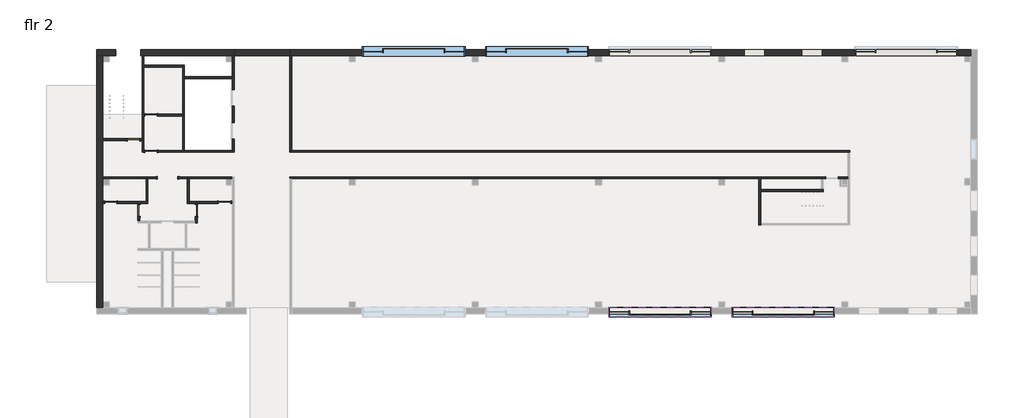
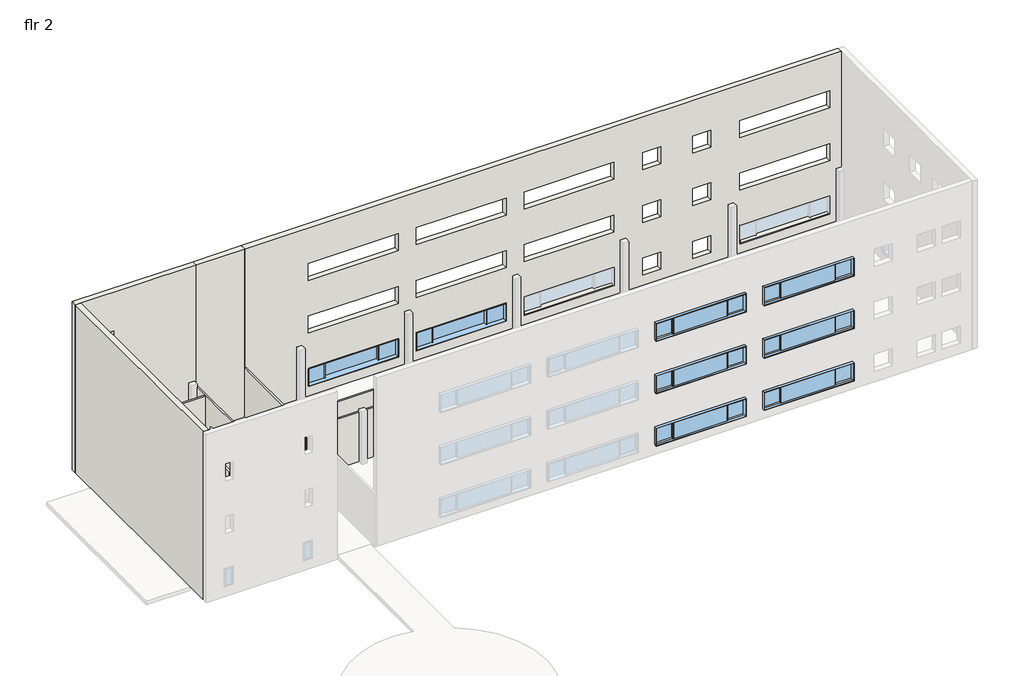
# One storey, part 2 of 3: 24 walls, 8 doors, 8 windows.
"""IFC4 building model written with IfcOpenShell, lengths in millimetres."""

from ifc_helpers import new_model, si_unit, frame, origin, place, context, project, spatial, polyline, outline, extrude, faceted_brep, transform, mapped, element, save
from components import door_df85aeb6, door_c6edcd30, door_9814c99b, fixed_25_x5_r1_fixed_25_x5_r1_81c53d64

model = new_model("IFC4")

# Units and contexts
model_context = context("Model", 3, world=origin())
ifc_project = project(units=[si_unit("LENGTHUNIT", "METRE", prefix="MILLI")], contexts=[model_context])

# Site, building, storey
site = spatial("IfcSite", under=ifc_project)
building = spatial("IfcBuilding", under=site)
storey = spatial("IfcBuildingStorey", under=building, Name="flr 2", Elevation=5486.4)

# Doors
placement = place(None, origin())
door_shape = door_df85aeb6(model_context)
element("IfcDoor", 1, ObjectType="Cased Opening : 60\" x 84\"", at=placement, inside=storey, context=model_context, shape_type="MappedRepresentation", body=[
    mapped(door_shape, transform((-110751.290902, 34756.8571029, 5486.4), x_axis=(-1.0, 0.0, 0.0), y_axis=(0.0, -1.0, 0.0), z_axis=(0.0, 0.0, 1.0))),
])
door_2_shape = door_c6edcd30(model_context)
element("IfcDoor", 2, ObjectType="Sgl Flush : 36\" x 84\"", at=placement, inside=storey, context=model_context, shape_type="MappedRepresentation", body=[
    mapped(door_2_shape, transform((-113272.240902, 37588.9571029, 5486.4), x_axis=(1.0, 0.0, 0.0), y_axis=(0.0, 1.0, 0.0), z_axis=(0.0, 0.0, 1.0))),
])
element("IfcDoor", 3, ObjectType="Sgl Flush : 36\" x 84\"", at=placement, inside=storey, context=model_context, shape_type="MappedRepresentation", body=[
    mapped(door_2_shape, transform((-112884.890902, 32318.4571029, 5486.4), x_axis=(0.0, 1.0, 0.0), y_axis=(-1.0, 0.0, 0.0), z_axis=(0.0, 0.0, 1.0))),
])
element("IfcDoor", 4, ObjectType="Sgl Flush : 36\" x 84\"", at=placement, inside=storey, context=model_context, shape_type="MappedRepresentation", body=[
    mapped(door_2_shape, transform((-106515.840902, 32928.0571029, 5486.4), x_axis=(1.0, 0.0, 0.0), y_axis=(0.0, 1.0, 0.0), z_axis=(0.0, 0.0, 1.0))),
])
door_3_shape = door_9814c99b(model_context)
element("IfcDoor", 5, ObjectType="Sgl Flush : 36\" x 84\"", at=placement, inside=storey, context=model_context, shape_type="MappedRepresentation", body=[
    mapped(door_3_shape, transform((-111970.490902, 36725.3571029, 5486.4), x_axis=(-1.0, 0.0, 0.0), y_axis=(0.0, -1.0, 0.0), z_axis=(0.0, 0.0, 1.0))),
])
element("IfcDoor", 6, ObjectType="Sgl Flush : 36\" x 84\"", at=placement, inside=storey, context=model_context, shape_type="MappedRepresentation", body=[
    mapped(door_3_shape, transform((-111970.490902, 39417.7571029, 5486.4), x_axis=(-1.0, 0.0, 0.0), y_axis=(0.0, -1.0, 0.0), z_axis=(0.0, 0.0, 1.0))),
])
element("IfcDoor", 7, ObjectType="Sgl Flush : 36\" x 84\"", at=placement, inside=storey, context=model_context, shape_type="MappedRepresentation", body=[
    mapped(door_3_shape, transform((-108617.690902, 32324.8071029, 5486.4), x_axis=(0.0, 1.0, 0.0), y_axis=(-1.0, 0.0, 0.0), z_axis=(0.0, 0.0, 1.0))),
])
element("IfcDoor", 8, ObjectType="Sgl Flush : 36\" x 84\"", at=placement, inside=storey, context=model_context, shape_type="MappedRepresentation", body=[
    mapped(door_3_shape, transform((-114968.0703209, 32928.0571029, 5486.4), x_axis=(-1.0, 0.0, 0.0), y_axis=(0.0, -1.0, 0.0), z_axis=(0.0, 0.0, 1.0))),
])

# Walls
element("IfcWall", 9, ObjectType="Interior - 5 1/2\" Partition (1-hr)", at=placement, inside=storey, context=model_context, shape_type="Brep", body=[
    faceted_brep([(-111513.290902, 34826.7071029, 7620.0), (-111513.290902, 34826.7071029, 5486.4), (-115553.8578209, 34826.7071029, 5486.4), (-115553.8578209, 34826.7071029, 9906.0), (-105950.690902, 34826.7071029, 9906.0), (-105950.690902, 34826.7071029, 5486.4), (-109989.290902, 34826.7071029, 5486.4), (-109989.290902, 34826.7071029, 7620.0), (-115553.8578209, 34687.0071029, 5486.4), (-112345.140902, 34687.0071029, 5486.4), (-112205.440902, 34687.0071029, 5486.4), (-111513.290902, 34687.0071029, 5486.4), (-111513.290902, 34687.0071029, 7620.0), (-109989.290902, 34687.0071029, 7620.0), (-109989.290902, 34687.0071029, 5486.4), (-109297.140902, 34687.0071029, 5486.4), (-109157.440902, 34687.0071029, 5486.4), (-105950.690902, 34687.0071029, 5486.4), (-105950.690902, 34687.0071029, 9906.0), (-109157.440902, 34687.0071029, 9906.0), (-109297.140902, 34687.0071029, 9906.0), (-112205.440902, 34687.0071029, 9906.0), (-112345.140902, 34687.0071029, 9906.0), (-115553.8578209, 34687.0071029, 9906.0)], [[[0, 1, 2, 3, 4, 5, 6, 7]], [[8, 9, 10, 11, 12, 13, 14, 15, 16, 17, 18, 19, 20, 21, 22, 23]], [[2, 1, 11, 10, 9, 8]], [[6, 5, 17, 16, 15, 14]], [[5, 4, 18, 17]], [[3, 2, 8, 23]], [[4, 3, 23, 22, 21, 20, 19, 18]], [[12, 11, 1, 0]], [[13, 12, 0, 7]], [[14, 13, 7, 6]]]),
])
element("IfcWall", 10, ObjectType="Interior - 5 1/2\" Partition (1-hr)", at=placement, inside=storey, context=model_context, shape_type="Brep", body=[
    faceted_brep([(-105950.690902, 40071.8071029, 7645.4), (-105950.690902, 40071.8071029, 5486.4), (-105950.690902, 38865.3071029, 5486.4), (-105950.690902, 38865.3071029, 7645.4), (-105950.690902, 37633.4071029, 7645.4), (-105950.690902, 37633.4071029, 5486.4), (-105950.690902, 36795.2071029, 5486.4), (-105950.690902, 36655.5071029, 5486.4), (-105950.690902, 36655.5071029, 9906.0), (-105950.690902, 36795.2071029, 9906.0), (-105950.690902, 42141.9071029, 9906.0), (-105950.690902, 42281.6071029, 9906.0), (-105950.690902, 43832.5946029, 9906.0), (-105950.690902, 43832.5946029, 5486.4), (-105950.690902, 42281.6071029, 5486.4), (-105950.690902, 42141.9071029, 5486.4), (-105950.690902, 41303.7071029, 5486.4), (-105950.690902, 41303.7071029, 7645.4), (-105810.990902, 38865.3071029, 5486.4), (-105810.990902, 40071.8071029, 5486.4), (-105810.990902, 40071.8071029, 7645.4), (-105810.990902, 41303.7071029, 7645.4), (-105810.990902, 41303.7071029, 5486.4), (-105810.990902, 43832.5946029, 5486.4), (-105810.990902, 43832.5946029, 9906.0), (-105810.990902, 36655.5071029, 9906.0), (-105810.990902, 36655.5071029, 5486.4), (-105810.990902, 37633.4071029, 5486.4), (-105810.990902, 37633.4071029, 7645.4), (-105810.990902, 38865.3071029, 7645.4)], [[[0, 1, 2, 3, 4, 5, 6, 7, 8, 9, 10, 11, 12, 13, 14, 15, 16, 17]], [[18, 19, 20, 21, 22, 23, 24, 25, 26, 27, 28, 29]], [[7, 6, 5, 27, 26]], [[2, 1, 19, 18]], [[16, 15, 14, 13, 23, 22]], [[8, 7, 26, 25]], [[13, 12, 24, 23]], [[12, 11, 10, 9, 8, 25, 24]], [[28, 27, 5, 4]], [[29, 28, 4, 3]], [[18, 29, 3, 2]], [[20, 19, 1, 0]], [[21, 20, 0, 17]], [[22, 21, 17, 16]]]),
])
element("IfcWall", 11, ObjectType="Interior - 5 1/2\" Partition (1-hr)", at=placement, inside=storey, context=model_context, shape_type="Brep", body=[
    faceted_brep([(-112427.690902, 36795.2071029, 7620.0), (-112427.690902, 36795.2071029, 5486.4), (-112510.240902, 36795.2071029, 5486.4), (-112649.940902, 36795.2071029, 5486.4), (-112649.940902, 36795.2071029, 9906.0), (-112510.240902, 36795.2071029, 9906.0), (-109633.690902, 36795.2071029, 9906.0), (-109493.990902, 36795.2071029, 9906.0), (-105950.690902, 36795.2071029, 9906.0), (-105950.690902, 36795.2071029, 5486.4), (-109493.990902, 36795.2071029, 5486.4), (-109633.690902, 36795.2071029, 5486.4), (-111513.290902, 36795.2071029, 5486.4), (-111513.290902, 36795.2071029, 7620.0), (-112649.940902, 36655.5071029, 5486.4), (-112427.690902, 36655.5071029, 5486.4), (-112427.690902, 36655.5071029, 7620.0), (-111513.290902, 36655.5071029, 7620.0), (-111513.290902, 36655.5071029, 5486.4), (-105950.690902, 36655.5071029, 5486.4), (-105950.690902, 36655.5071029, 9906.0), (-112649.940902, 36655.5071029, 9906.0)], [[[0, 1, 2, 3, 4, 5, 6, 7, 8, 9, 10, 11, 12, 13]], [[14, 15, 16, 17, 18, 19, 20, 21]], [[3, 2, 1, 15, 14]], [[12, 11, 10, 9, 19, 18]], [[4, 3, 14, 21]], [[9, 8, 20, 19]], [[8, 7, 6, 5, 4, 21, 20]], [[16, 15, 1, 0]], [[17, 16, 0, 13]], [[18, 17, 13, 12]]]),
])
element("IfcWall", 12, ObjectType="Interior - 5 1/2\" Partition (1-hr)", at=placement, inside=storey, context=model_context, shape_type="Brep", body=[
    faceted_brep([(-112510.240902, 36795.2071029, 5486.4), (-112510.240902, 39347.9071029, 5486.4), (-112510.240902, 39487.6071029, 5486.4), (-112510.240902, 42980.1071029, 5486.4), (-112510.240902, 43119.8071029, 5486.4), (-112510.240902, 43832.5946029, 5486.4), (-112510.240902, 43832.5946029, 9906.0), (-112510.240902, 43119.8071029, 9906.0), (-112510.240902, 42980.1071029, 9906.0), (-112510.240902, 39487.6071029, 9906.0), (-112510.240902, 39347.9071029, 9906.0), (-112510.240902, 36795.2071029, 9906.0), (-112649.940902, 36795.2071029, 5486.4), (-112649.940902, 36795.2071029, 9906.0), (-112649.940902, 39436.8071029, 9906.0), (-112649.940902, 43119.8071029, 9906.0), (-112649.940902, 43832.5946029, 9906.0), (-112649.940902, 43832.5946029, 5486.4), (-112649.940902, 37658.8071029, 5486.4), (-112649.940902, 37519.1071029, 5486.4)], [[[0, 1, 2, 3, 4, 5, 6, 7, 8, 9, 10, 11]], [[12, 13, 14, 15, 16, 17, 18, 19]], [[5, 4, 3, 2, 1, 0, 12, 19, 18, 17]], [[0, 11, 13, 12]], [[6, 5, 17, 16]], [[7, 6, 16, 15]], [[11, 10, 9, 8, 7, 15, 14, 13]]]),
])
element("IfcWall", 13, ObjectType="Interior - 5 1/2\" Partition (1-hr)", at=placement, inside=storey, context=model_context, shape_type="SweptSolid", body=[
    extrude(outline(polyline([(7620.0, -112815.040902), (5486.4, -112815.040902), (5486.4, -112649.940902), (10210.8, -112649.940902), (10210.8, -115553.8578209), (5486.4, -115553.8578209), (5486.4, -113729.440902), (7620.0, -113729.440902), (7620.0, -112815.040902)])), frame((0.0, 37519.1071029, 0.0), z_axis=(0.0, 1.0, 0.0), x_axis=(0.0, 0.0, 1.0)), (0.0, 0.0, 1.0), 139.7),
])
element("IfcWall", 14, ObjectType="Interior - 5 1/2\" Partition (1-hr)", at=placement, inside=storey, context=model_context, shape_type="Brep", body=[
    faceted_brep([(-109493.990902, 36795.2071029, 5486.4), (-109493.990902, 42141.9071029, 5486.4), (-109493.990902, 42281.6071029, 5486.4), (-109493.990902, 43119.8071029, 5486.4), (-109493.990902, 43119.8071029, 9906.0), (-109493.990902, 42281.6071029, 9906.0), (-109493.990902, 42141.9071029, 9906.0), (-109493.990902, 36795.2071029, 9906.0), (-109633.690902, 36795.2071029, 5486.4), (-109633.690902, 36795.2071029, 9906.0), (-109633.690902, 39347.9071029, 9906.0), (-109633.690902, 39487.6071029, 9906.0), (-109633.690902, 42980.1071029, 9906.0), (-109633.690902, 43119.8071029, 9906.0), (-109633.690902, 43119.8071029, 5486.4), (-109633.690902, 42980.1071029, 5486.4), (-109633.690902, 39487.6071029, 5486.4), (-109633.690902, 39347.9071029, 5486.4)], [[[0, 1, 2, 3, 4, 5, 6, 7]], [[8, 9, 10, 11, 12, 13, 14, 15, 16, 17]], [[3, 2, 1, 0, 8, 17, 16, 15, 14]], [[4, 3, 14, 13]], [[0, 7, 9, 8]], [[7, 6, 5, 4, 13, 12, 11, 10, 9]]]),
])
element("IfcWall", 15, ObjectType="Interior - 5 1/2\" Partition (1-hr)", at=placement, inside=storey, context=model_context, shape_type="SweptSolid", body=[
    extrude(outline(polyline([(-112510.240902, 43119.8071029), (-109633.690902, 43119.8071029), (-109633.690902, 42980.1071029), (-112510.240902, 42980.1071029), (-112510.240902, 43119.8071029)])), frame((0.0, 0.0, 5486.4), z_axis=(0.0, 0.0, 1.0), x_axis=(1.0, 0.0, 0.0)), (0.0, 0.0, 1.0), 4419.6),
])
element("IfcWall", 16, ObjectType="Interior - 5 1/2\" Partition (1-hr)", at=placement, inside=storey, context=model_context, shape_type="SweptSolid", body=[
    extrude(outline(polyline([(-105950.690902, 42141.9071029), (-109493.990902, 42141.9071029), (-109493.990902, 42281.6071029), (-105950.690902, 42281.6071029), (-105950.690902, 42141.9071029)])), frame((0.0, 0.0, 5486.4), z_axis=(0.0, 0.0, 1.0), x_axis=(1.0, 0.0, 0.0)), (0.0, 0.0, 1.0), 4419.6),
])
element("IfcWall", 17, ObjectType="Interior - 5 1/2\" Partition (1-hr)", at=placement, inside=storey, context=model_context, shape_type="SweptSolid", body=[
    extrude(outline(polyline([(5486.4, -112510.240902), (5486.4, -112427.690902), (7620.0, -112427.690902), (7620.0, -111513.290902), (5486.4, -111513.290902), (5486.4, -109633.690902), (9906.0, -109633.690902), (9906.0, -112510.240902), (5486.4, -112510.240902)])), frame((0.0, 39347.9071029, 0.0), z_axis=(0.0, 1.0, 0.0), x_axis=(0.0, 0.0, 1.0)), (0.0, 0.0, 1.0), 139.7),
])
element("IfcWall", 18, ObjectType="Interior - 5 1/2\" Partition (1-hr)", at=placement, inside=storey, context=model_context, shape_type="Brep", body=[
    faceted_brep([(-109297.140902, 34687.0071029, 5486.4), (-109297.140902, 32858.2071029, 5486.4), (-109297.140902, 32858.2071029, 9906.0), (-109297.140902, 34687.0071029, 9906.0), (-109157.440902, 34687.0071029, 5486.4), (-109157.440902, 34687.0071029, 9906.0), (-109157.440902, 32997.9071029, 9906.0), (-109157.440902, 32858.2071029, 9906.0), (-109157.440902, 32858.2071029, 5486.4), (-109157.440902, 32997.9071029, 5486.4)], [[[0, 1, 2, 3]], [[4, 5, 6, 7, 8, 9]], [[1, 0, 4, 9, 8]], [[2, 1, 8, 7]], [[0, 3, 5, 4]], [[3, 2, 7, 6, 5]]]),
])
element("IfcWall", 19, ObjectType="Interior - 5 1/2\" Partition (1-hr)", at=placement, inside=storey, context=model_context, shape_type="Brep", body=[
    faceted_brep([(-106058.640902, 32858.2071029, 7620.0), (-106058.640902, 32858.2071029, 5486.4), (-105950.690902, 32858.2071029, 5486.4), (-105950.690902, 32858.2071029, 9906.0), (-108547.840902, 32858.2071029, 9906.0), (-108687.540902, 32858.2071029, 9906.0), (-109157.440902, 32858.2071029, 9906.0), (-109157.440902, 32858.2071029, 5486.4), (-108687.540902, 32858.2071029, 5486.4), (-108547.840902, 32858.2071029, 5486.4), (-106973.040902, 32858.2071029, 5486.4), (-106973.040902, 32858.2071029, 7620.0), (-105950.690902, 32997.9071029, 5486.4), (-106058.640902, 32997.9071029, 5486.4), (-106058.640902, 32997.9071029, 7620.0), (-106973.040902, 32997.9071029, 7620.0), (-106973.040902, 32997.9071029, 5486.4), (-109157.440902, 32997.9071029, 5486.4), (-109157.440902, 32997.9071029, 9906.0), (-105950.690902, 32997.9071029, 9906.0)], [[[0, 1, 2, 3, 4, 5, 6, 7, 8, 9, 10, 11]], [[12, 13, 14, 15, 16, 17, 18, 19]], [[2, 1, 13, 12]], [[10, 9, 8, 7, 17, 16]], [[7, 6, 18, 17]], [[3, 2, 12, 19]], [[6, 5, 4, 3, 19, 18]], [[14, 13, 1, 0]], [[15, 14, 0, 11]], [[16, 15, 11, 10]]]),
])
element("IfcWall", 20, ObjectType="Interior - 5 1/2\" Partition (1-hr)", at=placement, inside=storey, context=model_context, shape_type="Brep", body=[
    faceted_brep([(-115553.8578209, 32858.2071029, 5486.4), (-115425.2703209, 32858.2071029, 5486.4), (-115425.2703209, 32858.2071029, 7620.0), (-114510.8703209, 32858.2071029, 7620.0), (-114510.8703209, 32858.2071029, 5486.4), (-112954.740902, 32858.2071029, 5486.4), (-112815.040902, 32858.2071029, 5486.4), (-112205.440902, 32858.2071029, 5486.4), (-112205.440902, 32858.2071029, 10210.8), (-115553.8578209, 32858.2071029, 10210.8), (-115425.2703209, 32997.9071029, 7620.0), (-115425.2703209, 32997.9071029, 5486.4), (-115553.8578209, 32997.9071029, 5486.4), (-115553.8578209, 32997.9071029, 10210.8), (-112205.440902, 32997.9071029, 10210.8), (-112205.440902, 32997.9071029, 9906.0), (-112205.440902, 32997.9071029, 5486.4), (-112345.140902, 32997.9071029, 5486.4), (-114510.8703209, 32997.9071029, 5486.4), (-114510.8703209, 32997.9071029, 7620.0)], [[[0, 1, 2, 3, 4, 5, 6, 7, 8, 9]], [[10, 11, 12, 13, 14, 15, 16, 17, 18, 19]], [[12, 11, 1, 0]], [[18, 17, 16, 7, 6, 5, 4]], [[9, 8, 14, 13]], [[8, 7, 16, 15, 14]], [[0, 9, 13, 12]], [[2, 1, 11, 10]], [[3, 2, 10, 19]], [[4, 3, 19, 18]]]),
])
element("IfcWall", 21, ObjectType="Interior - 5 1/2\" Partition (1-hr)", at=placement, inside=storey, context=model_context, shape_type="SweptSolid", body=[
    extrude(outline(polyline([(-112205.440902, 34687.0071029), (-112205.440902, 32997.9071029), (-112345.140902, 32997.9071029), (-112345.140902, 34687.0071029), (-112205.440902, 34687.0071029)])), frame((0.0, 0.0, 5486.4), z_axis=(0.0, 0.0, 1.0), x_axis=(1.0, 0.0, 0.0)), (0.0, 0.0, 1.0), 4419.6),
])
element("IfcWall", 22, ObjectType="Interior - 5 1/2\" Partition (1-hr)", at=placement, inside=storey, context=model_context, shape_type="Brep", body=[
    faceted_brep([(-108687.540902, 32858.2071029, 5486.4), (-108687.540902, 32782.0071029, 5486.4), (-108687.540902, 32782.0071029, 7620.0), (-108687.540902, 31867.6071029, 7620.0), (-108687.540902, 31867.6071029, 5486.4), (-108687.540902, 31550.1071029, 5486.4), (-108687.540902, 31410.4071029, 5486.4), (-108687.540902, 31410.4071029, 9906.0), (-108687.540902, 31550.1071029, 9906.0), (-108687.540902, 32858.2071029, 9906.0), (-108547.840902, 32782.0071029, 7620.0), (-108547.840902, 32782.0071029, 5486.4), (-108547.840902, 32858.2071029, 5486.4), (-108547.840902, 32858.2071029, 9906.0), (-108547.840902, 31410.4071029, 9906.0), (-108547.840902, 31410.4071029, 5486.4), (-108547.840902, 31867.6071029, 5486.4), (-108547.840902, 31867.6071029, 7620.0)], [[[0, 1, 2, 3, 4, 5, 6, 7, 8, 9]], [[10, 11, 12, 13, 14, 15, 16, 17]], [[12, 11, 1, 0]], [[16, 15, 6, 5, 4]], [[7, 6, 15, 14]], [[0, 9, 13, 12]], [[9, 8, 7, 14, 13]], [[2, 1, 11, 10]], [[3, 2, 10, 17]], [[4, 3, 17, 16]]]),
])
element("IfcWall", 23, ObjectType="Interior - 5 1/2\" Partition (1-hr)", at=placement, inside=storey, context=model_context, shape_type="SweptSolid", body=[
    extrude(outline(polyline([(32858.2071029, 5486.4), (32775.6571029, 5486.4), (32775.6571029, 7620.0), (31861.2571029, 7620.0), (31861.2571029, 5486.4), (31550.1071029, 5486.4), (31550.1071029, 9906.0), (32858.2071029, 9906.0), (32858.2071029, 5486.4)])), frame((-112954.740902, 0.0, 0.0), z_axis=(1.0, 0.0, 0.0), x_axis=(0.0, 1.0, 0.0)), (0.0, 0.0, 1.0), 139.7),
])
element("IfcWall", 24, ObjectType="Interior - 5 1/2\" Partition (1-hr)", at=placement, inside=storey, context=model_context, shape_type="Brep", body=[
    faceted_brep([(-60941.890902, 34687.0071029, 7620.0), (-60941.890902, 34687.0071029, 5486.4), (-60827.590902, 34687.0071029, 5486.4), (-60687.890902, 34687.0071029, 5486.4), (-60230.690902, 34687.0071029, 5486.4), (-60230.690902, 34687.0071029, 9906.0), (-60687.890902, 34687.0071029, 9906.0), (-60827.590902, 34687.0071029, 9906.0), (-62065.840902, 34687.0071029, 9906.0), (-62205.540902, 34687.0071029, 9906.0), (-66688.640902, 34687.0071029, 9906.0), (-66828.340902, 34687.0071029, 9906.0), (-101677.140902, 34687.0071029, 9906.0), (-101677.140902, 34687.0071029, 5486.4), (-101537.440902, 34687.0071029, 5486.4), (-66828.340902, 34687.0071029, 5486.4), (-66688.640902, 34687.0071029, 5486.4), (-62205.540902, 34687.0071029, 5486.4), (-62065.840902, 34687.0071029, 5486.4), (-61856.290902, 34687.0071029, 5486.4), (-61856.290902, 34687.0071029, 7620.0), (-60230.690902, 34826.7071029, 5486.4), (-60941.890902, 34826.7071029, 5486.4), (-60941.890902, 34826.7071029, 7620.0), (-61856.290902, 34826.7071029, 7620.0), (-61856.290902, 34826.7071029, 5486.4), (-101677.140902, 34826.7071029, 5486.4), (-101677.140902, 34826.7071029, 9906.0), (-60230.690902, 34826.7071029, 9906.0)], [[[0, 1, 2, 3, 4, 5, 6, 7, 8, 9, 10, 11, 12, 13, 14, 15, 16, 17, 18, 19, 20]], [[21, 22, 23, 24, 25, 26, 27, 28]], [[4, 3, 2, 1, 22, 21]], [[19, 18, 17, 16, 15, 14, 13, 26, 25]], [[13, 12, 27, 26]], [[5, 4, 21, 28]], [[12, 11, 10, 9, 8, 7, 6, 5, 28, 27]], [[23, 22, 1, 0]], [[24, 23, 0, 20]], [[25, 24, 20, 19]]]),
])
element("IfcWall", 25, ObjectType="Interior - 5 1/2\" Partition (1-hr)", at=placement, inside=storey, context=model_context, shape_type="Brep", body=[
    faceted_brep([(-101677.140902, 36655.5071029, 5486.4), (-60230.690902, 36655.5071029, 5486.4), (-60090.990902, 36655.5071029, 5486.4), (-60090.990902, 36655.5071029, 9906.0), (-60230.690902, 36655.5071029, 9906.0), (-101677.140902, 36655.5071029, 9906.0), (-101677.140902, 36795.2071029, 5486.4), (-101677.140902, 36795.2071029, 9906.0), (-101537.440902, 36795.2071029, 9906.0), (-60090.990902, 36795.2071029, 9906.0), (-60090.990902, 36795.2071029, 5486.4), (-101537.440902, 36795.2071029, 5486.4)], [[[0, 1, 2, 3, 4, 5]], [[6, 7, 8, 9, 10, 11]], [[2, 1, 0, 6, 11, 10]], [[0, 5, 7, 6]], [[3, 2, 10, 9]], [[5, 4, 3, 9, 8, 7]]]),
])
element("IfcWall", 26, ObjectType="Interior - 5 1/2\" Partition (1-hr)", at=placement, inside=storey, context=model_context, shape_type="SweptSolid", body=[
    extrude(outline(polyline([(-101537.440902, 43832.5946029), (-101537.440902, 36795.2071029), (-101677.140902, 36795.2071029), (-101677.140902, 43832.5946029), (-101537.440902, 43832.5946029)])), frame((0.0, 0.0, 5486.4), z_axis=(0.0, 0.0, 1.0), x_axis=(1.0, 0.0, 0.0)), (0.0, 0.0, 1.0), 4419.6),
])
element("IfcWall", 27, ObjectType="Interior - 5 1/2\" Partition (1-hr)", at=placement, inside=storey, context=model_context, shape_type="Brep", body=[
    faceted_brep([(-66828.340902, 34687.0071029, 5486.4), (-66828.340902, 31232.6071029, 5486.4), (-66828.340902, 31232.6071029, 9906.0), (-66828.340902, 34687.0071029, 9906.0), (-66688.640902, 34687.0071029, 5486.4), (-66688.640902, 34687.0071029, 9906.0), (-66688.640902, 33867.8571029, 9906.0), (-66688.640902, 33728.1571029, 9906.0), (-66688.640902, 31372.3071029, 9906.0), (-66688.640902, 31232.6071029, 9906.0), (-66688.640902, 31232.6071029, 5486.4), (-66688.640902, 31372.3071029, 5486.4), (-66688.640902, 33728.1571029, 5486.4), (-66688.640902, 33867.8571029, 5486.4)], [[[0, 1, 2, 3]], [[4, 5, 6, 7, 8, 9, 10, 11, 12, 13]], [[1, 0, 4, 13, 12, 11, 10]], [[2, 1, 10, 9]], [[0, 3, 5, 4]], [[3, 2, 9, 8, 7, 6, 5]]]),
])
element("IfcWall", 28, ObjectType="Interior - 5 1/2\" Partition (1-hr)", at=placement, inside=storey, context=model_context, shape_type="Brep", body=[
    faceted_brep([(-66688.640902, 33728.1571029, 5486.4), (-62065.840902, 33728.1571029, 5486.4), (-62065.840902, 33728.1571029, 9906.0), (-62318.5594944, 33728.1571029, 9906.0), (-66688.640902, 33728.1571029, 9906.0), (-66688.640902, 33867.8571029, 5486.4), (-66688.640902, 33867.8571029, 9906.0), (-62205.540902, 33867.8571029, 9906.0), (-62065.840902, 33867.8571029, 9906.0), (-62065.840902, 33867.8571029, 5486.4), (-62205.540902, 33867.8571029, 5486.4)], [[[0, 1, 2, 3, 4]], [[5, 6, 7, 8, 9, 10]], [[1, 0, 5, 10, 9]], [[2, 1, 9, 8]], [[0, 4, 6, 5]], [[4, 3, 2, 8, 7, 6]]]),
])
element("IfcWall", 29, ObjectType="a_Stone on CMU", at=placement, inside=storey, context=model_context, shape_type="Brep", body=[
    faceted_brep([(-115553.8578209, 25084.2196029, 5486.4), (-115553.8578209, 32858.2071029, 5486.4), (-115553.8578209, 32997.9071029, 5486.4), (-115553.8578209, 34687.0071029, 5486.4), (-115553.8578209, 34826.7071029, 5486.4), (-115553.8578209, 37519.1071029, 5486.4), (-115553.8578209, 37658.8071029, 5486.4), (-115553.8578209, 43832.5946029, 5486.4), (-115553.8578209, 43832.5946029, 20574.0), (-115553.8578209, 25084.2196029, 20574.0), (-116007.8828209, 25084.2196029, 5486.4), (-116007.8828209, 25084.2196029, 20574.0), (-116007.8828209, 43832.5946029, 20574.0), (-116007.8828209, 43832.5946029, 5486.4)], [[[0, 1, 2, 3, 4, 5, 6, 7, 8, 9]], [[10, 11, 12, 13]], [[7, 6, 5, 4, 3, 2, 1, 0, 10, 13]], [[9, 8, 12, 11]], [[0, 9, 11, 10]], [[8, 7, 13, 12]]]),
])
element("IfcWall", 30, ObjectType="a_Stone on CMU", at=placement, inside=storey, context=model_context, shape_type="Brep", body=[
    faceted_brep([(-105798.6703209, 43832.5946029, 5486.4), (-105798.6703209, 43832.5946029, 20574.0), (-115553.8578209, 43832.5946029, 20574.0), (-116007.8828209, 43832.5946029, 20574.0), (-116007.8828209, 43832.5946029, 5486.4), (-115553.8578209, 43832.5946029, 5486.4), (-114586.690902, 43832.5946029, 5486.4), (-114586.690902, 43832.5946029, 10156.7648235), (-112757.890902, 43832.5946029, 10156.7648235), (-112757.890902, 43832.5946029, 5486.4), (-112649.940902, 43832.5946029, 5486.4), (-112510.240902, 43832.5946029, 5486.4), (-105950.690902, 43832.5946029, 5486.4), (-105810.990902, 43832.5946029, 5486.4), (-112757.890902, 43832.5946029, 17068.8), (-112757.890902, 43832.5946029, 10820.4), (-114586.690902, 43832.5946029, 10820.4), (-114586.690902, 43832.5946029, 17068.8), (-105798.6703209, 44286.6196029, 20574.0), (-105798.6703209, 44286.6196029, 5486.4), (-112757.890902, 44286.6196029, 5486.4), (-112757.890902, 44286.6196029, 10156.7648235), (-114586.690902, 44286.6196029, 10156.7648235), (-114586.690902, 44286.6196029, 5486.4), (-116007.8828209, 44286.6196029, 5486.4), (-116007.8828209, 44286.6196029, 20574.0), (-112757.890902, 44286.6196029, 10820.4), (-112757.890902, 44286.6196029, 17068.8), (-114586.690902, 44286.6196029, 17068.8), (-114586.690902, 44286.6196029, 10820.4)], [[[0, 1, 2, 3, 4, 5, 6, 7, 8, 9, 10, 11, 12, 13], [14, 15, 16, 17]], [[18, 19, 20, 21, 22, 23, 24, 25], [26, 27, 28, 29]], [[19, 0, 13, 12, 11, 10, 9, 20]], [[4, 24, 23, 6, 5]], [[1, 0, 19, 18]], [[3, 2, 1, 18, 25]], [[4, 3, 25, 24]], [[15, 14, 27, 26]], [[16, 15, 26, 29]], [[17, 16, 29, 28]], [[14, 17, 28, 27]], [[8, 21, 20, 9]], [[22, 7, 6, 23]], [[21, 8, 7, 22]]]),
])
element("IfcWall", 31, ObjectType="a_Stone on CMU", at=placement, inside=storey, context=model_context, shape_type="Brep", body=[
    faceted_brep([(-101677.140902, 43832.5946029, 5486.4), (-101537.440902, 43832.5946029, 5486.4), (-51085.103402, 43832.5946029, 5486.4), (-51085.103402, 43832.5946029, 20574.0), (-101677.140902, 43832.5946029, 20574.0), (-101677.140902, 43832.5946029, 19659.6), (-101677.140902, 43832.5946029, 14935.2), (-101677.140902, 43832.5946029, 14630.4), (-101677.140902, 43832.5946029, 10210.8), (-101677.140902, 43832.5946029, 9906.0), (-70365.290902, 43832.5946029, 7924.8), (-70365.290902, 43832.5946029, 6400.8), (-77985.290902, 43832.5946029, 6400.8), (-77985.290902, 43832.5946029, 7924.8), (-70365.290902, 43832.5946029, 12649.2), (-70365.290902, 43832.5946029, 11125.2), (-77985.290902, 43832.5946029, 11125.2), (-77985.290902, 43832.5946029, 12649.2), (-70365.290902, 43832.5946029, 17373.6), (-70365.290902, 43832.5946029, 15849.6), (-77985.290902, 43832.5946029, 15849.6), (-77985.290902, 43832.5946029, 17373.6), (-79509.290902, 43832.5946029, 7924.8), (-79509.290902, 43832.5946029, 6400.8), (-87129.290902, 43832.5946029, 6400.8), (-87129.290902, 43832.5946029, 7924.8), (-79509.290902, 43832.5946029, 12649.2), (-79509.290902, 43832.5946029, 11125.2), (-87129.290902, 43832.5946029, 11125.2), (-87129.290902, 43832.5946029, 12649.2), (-79509.290902, 43832.5946029, 17373.6), (-79509.290902, 43832.5946029, 15849.6), (-87129.290902, 43832.5946029, 15849.6), (-87129.290902, 43832.5946029, 17373.6), (-88653.290902, 43832.5946029, 7924.8), (-88653.290902, 43832.5946029, 6400.8), (-96273.290902, 43832.5946029, 6400.8), (-96273.290902, 43832.5946029, 7924.8), (-88653.290902, 43832.5946029, 12649.2), (-88653.290902, 43832.5946029, 11125.2), (-96273.290902, 43832.5946029, 11125.2), (-96273.290902, 43832.5946029, 12649.2), (-88653.290902, 43832.5946029, 17373.6), (-88653.290902, 43832.5946029, 15849.6), (-96273.290902, 43832.5946029, 15849.6), (-96273.290902, 43832.5946029, 17373.6), (-52077.290902, 43832.5946029, 7924.8), (-52077.290902, 43832.5946029, 6400.8), (-59697.290902, 43832.5946029, 6400.8), (-59697.290902, 43832.5946029, 7924.8), (-52077.290902, 43832.5946029, 12649.2), (-52077.290902, 43832.5946029, 11125.2), (-59697.290902, 43832.5946029, 11125.2), (-59697.290902, 43832.5946029, 12649.2), (-52077.290902, 43832.5946029, 17373.6), (-52077.290902, 43832.5946029, 15849.6), (-59697.290902, 43832.5946029, 15849.6), (-59697.290902, 43832.5946029, 17373.6), (-62135.690902, 43832.5946029, 17373.6), (-62135.690902, 43832.5946029, 15849.6), (-63659.690902, 43832.5946029, 15849.6), (-63659.690902, 43832.5946029, 17373.6), (-66402.890902, 43832.5946029, 17373.6), (-66402.890902, 43832.5946029, 15849.6), (-67926.890902, 43832.5946029, 15849.6), (-67926.890902, 43832.5946029, 17373.6), (-62135.690902, 43832.5946029, 12649.2), (-62135.690902, 43832.5946029, 11125.2), (-63659.690902, 43832.5946029, 11125.2), (-63659.690902, 43832.5946029, 12649.2), (-66402.890902, 43832.5946029, 12649.2), (-66402.890902, 43832.5946029, 11125.2), (-67926.890902, 43832.5946029, 11125.2), (-67926.890902, 43832.5946029, 12649.2), (-62135.690902, 43832.5946029, 7924.8), (-62135.690902, 43832.5946029, 6400.8), (-63659.690902, 43832.5946029, 6400.8), (-63659.690902, 43832.5946029, 7924.8), (-66402.890902, 43832.5946029, 7924.8), (-66402.890902, 43832.5946029, 6400.8), (-67926.890902, 43832.5946029, 6400.8), (-67926.890902, 43832.5946029, 7924.8), (-101677.140902, 44286.6196029, 5486.4), (-101677.140902, 44286.6196029, 20574.0), (-51085.103402, 44286.6196029, 20574.0), (-51085.103402, 44286.6196029, 5486.4), (-70365.290902, 44286.6196029, 7924.8), (-77985.290902, 44286.6196029, 7924.8), (-77985.290902, 44286.6196029, 6400.8), (-70365.290902, 44286.6196029, 6400.8), (-70365.290902, 44286.6196029, 12649.2), (-77985.290902, 44286.6196029, 12649.2), (-77985.290902, 44286.6196029, 11125.2), (-70365.290902, 44286.6196029, 11125.2), (-70365.290902, 44286.6196029, 17373.6), (-77985.290902, 44286.6196029, 17373.6), (-77985.290902, 44286.6196029, 15849.6), (-70365.290902, 44286.6196029, 15849.6), (-79509.290902, 44286.6196029, 7924.8), (-87129.290902, 44286.6196029, 7924.8), (-87129.290902, 44286.6196029, 6400.8), (-79509.290902, 44286.6196029, 6400.8), (-79509.290902, 44286.6196029, 12649.2), (-87129.290902, 44286.6196029, 12649.2), (-87129.290902, 44286.6196029, 11125.2), (-79509.290902, 44286.6196029, 11125.2), (-79509.290902, 44286.6196029, 17373.6), (-87129.290902, 44286.6196029, 17373.6), (-87129.290902, 44286.6196029, 15849.6), (-79509.290902, 44286.6196029, 15849.6), (-88653.290902, 44286.6196029, 7924.8), (-96273.290902, 44286.6196029, 7924.8), (-96273.290902, 44286.6196029, 6400.8), (-88653.290902, 44286.6196029, 6400.8), (-88653.290902, 44286.6196029, 12649.2), (-96273.290902, 44286.6196029, 12649.2), (-96273.290902, 44286.6196029, 11125.2), (-88653.290902, 44286.6196029, 11125.2), (-88653.290902, 44286.6196029, 17373.6), (-96273.290902, 44286.6196029, 17373.6), (-96273.290902, 44286.6196029, 15849.6), (-88653.290902, 44286.6196029, 15849.6), (-52077.290902, 44286.6196029, 7924.8), (-59697.290902, 44286.6196029, 7924.8), (-59697.290902, 44286.6196029, 6400.8), (-52077.290902, 44286.6196029, 6400.8), (-52077.290902, 44286.6196029, 12649.2), (-59697.290902, 44286.6196029, 12649.2), (-59697.290902, 44286.6196029, 11125.2), (-52077.290902, 44286.6196029, 11125.2), (-52077.290902, 44286.6196029, 17373.6), (-59697.290902, 44286.6196029, 17373.6), (-59697.290902, 44286.6196029, 15849.6), (-52077.290902, 44286.6196029, 15849.6), (-62135.690902, 44286.6196029, 17373.6), (-63659.690902, 44286.6196029, 17373.6), (-63659.690902, 44286.6196029, 15849.6), (-62135.690902, 44286.6196029, 15849.6), (-66402.890902, 44286.6196029, 17373.6), (-67926.890902, 44286.6196029, 17373.6), (-67926.890902, 44286.6196029, 15849.6), (-66402.890902, 44286.6196029, 15849.6), (-62135.690902, 44286.6196029, 12649.2), (-63659.690902, 44286.6196029, 12649.2), (-63659.690902, 44286.6196029, 11125.2), (-62135.690902, 44286.6196029, 11125.2), (-66402.890902, 44286.6196029, 12649.2), (-67926.890902, 44286.6196029, 12649.2), (-67926.890902, 44286.6196029, 11125.2), (-66402.890902, 44286.6196029, 11125.2), (-62135.690902, 44286.6196029, 7924.8), (-63659.690902, 44286.6196029, 7924.8), (-63659.690902, 44286.6196029, 6400.8), (-62135.690902, 44286.6196029, 6400.8), (-66402.890902, 44286.6196029, 7924.8), (-67926.890902, 44286.6196029, 7924.8), (-67926.890902, 44286.6196029, 6400.8), (-66402.890902, 44286.6196029, 6400.8)], [[[0, 1, 2, 3, 4, 5, 6, 7, 8, 9], [10, 11, 12, 13], [14, 15, 16, 17], [18, 19, 20, 21], [22, 23, 24, 25], [26, 27, 28, 29], [30, 31, 32, 33], [34, 35, 36, 37], [38, 39, 40, 41], [42, 43, 44, 45], [46, 47, 48, 49], [50, 51, 52, 53], [54, 55, 56, 57], [58, 59, 60, 61], [62, 63, 64, 65], [66, 67, 68, 69], [70, 71, 72, 73], [74, 75, 76, 77], [78, 79, 80, 81]], [[82, 83, 84, 85], [86, 87, 88, 89], [90, 91, 92, 93], [94, 95, 96, 97], [98, 99, 100, 101], [102, 103, 104, 105], [106, 107, 108, 109], [110, 111, 112, 113], [114, 115, 116, 117], [118, 119, 120, 121], [122, 123, 124, 125], [126, 127, 128, 129], [130, 131, 132, 133], [134, 135, 136, 137], [138, 139, 140, 141], [142, 143, 144, 145], [146, 147, 148, 149], [150, 151, 152, 153], [154, 155, 156, 157]], [[2, 1, 0, 82, 85]], [[4, 3, 84, 83]], [[0, 9, 8, 7, 6, 5, 4, 83, 82]], [[3, 2, 85, 84]], [[11, 10, 86, 89]], [[12, 11, 89, 88]], [[13, 12, 88, 87]], [[10, 13, 87, 86]], [[15, 14, 90, 93]], [[16, 15, 93, 92]], [[17, 16, 92, 91]], [[14, 17, 91, 90]], [[19, 18, 94, 97]], [[20, 19, 97, 96]], [[21, 20, 96, 95]], [[18, 21, 95, 94]], [[23, 22, 98, 101]], [[24, 23, 101, 100]], [[25, 24, 100, 99]], [[22, 25, 99, 98]], [[27, 26, 102, 105]], [[28, 27, 105, 104]], [[29, 28, 104, 103]], [[26, 29, 103, 102]], [[31, 30, 106, 109]], [[32, 31, 109, 108]], [[33, 32, 108, 107]], [[30, 33, 107, 106]], [[35, 34, 110, 113]], [[36, 35, 113, 112]], [[37, 36, 112, 111]], [[34, 37, 111, 110]], [[39, 38, 114, 117]], [[40, 39, 117, 116]], [[41, 40, 116, 115]], [[38, 41, 115, 114]], [[43, 42, 118, 121]], [[44, 43, 121, 120]], [[45, 44, 120, 119]], [[42, 45, 119, 118]], [[47, 46, 122, 125]], [[48, 47, 125, 124]], [[49, 48, 124, 123]], [[46, 49, 123, 122]], [[51, 50, 126, 129]], [[52, 51, 129, 128]], [[53, 52, 128, 127]], [[50, 53, 127, 126]], [[55, 54, 130, 133]], [[56, 55, 133, 132]], [[57, 56, 132, 131]], [[54, 57, 131, 130]], [[59, 58, 134, 137]], [[60, 59, 137, 136]], [[61, 60, 136, 135]], [[58, 61, 135, 134]], [[63, 62, 138, 141]], [[64, 63, 141, 140]], [[65, 64, 140, 139]], [[62, 65, 139, 138]], [[67, 66, 142, 145]], [[68, 67, 145, 144]], [[69, 68, 144, 143]], [[66, 69, 143, 142]], [[71, 70, 146, 149]], [[72, 71, 149, 148]], [[73, 72, 148, 147]], [[70, 73, 147, 146]], [[75, 74, 150, 153]], [[76, 75, 153, 152]], [[77, 76, 152, 151]], [[74, 77, 151, 150]], [[79, 78, 154, 157]], [[80, 79, 157, 156]], [[81, 80, 156, 155]], [[78, 81, 155, 154]]]),
])
element("IfcWall", 32, ObjectType="a_Stone on CMU", at=placement, inside=storey, context=model_context, shape_type="SweptSolid", body=[
    extrude(outline(polyline([(-101677.140902, 43832.5946029), (-105798.6703209, 43832.5946029), (-105798.6703209, 44286.6196029), (-101677.140902, 44286.6196029), (-101677.140902, 43832.5946029)])), frame((0.0, 0.0, 5486.4), z_axis=(0.0, 0.0, 1.0), x_axis=(1.0, 0.0, 0.0)), (0.0, 0.0, 1.0), 15087.6),
])

# Windows
fixed_25_x5_r1_fixed_25_x5_r1_shape = fixed_25_x5_r1_fixed_25_x5_r1_81c53d64(model_context)
element("IfcWindow", 33, ObjectType="Fixed 25'x5'-r1 : Fixed 25'x5'-r1", at=placement, inside=storey, context=model_context, shape_type="MappedRepresentation", body=[
    mapped(fixed_25_x5_r1_fixed_25_x5_r1_shape, transform((-83065.290902, 44059.6071029, 5486.4), x_axis=(1.0, 0.0, 0.0), y_axis=(0.0, 1.0, 0.0), z_axis=(0.0, 0.0, 1.0))),
])
element("IfcWindow", 34, ObjectType="Fixed 25'x5'-r1 : Fixed 25'x5'-r1", at=placement, inside=storey, context=model_context, shape_type="MappedRepresentation", body=[
    mapped(fixed_25_x5_r1_fixed_25_x5_r1_shape, transform((-92209.290902, 44059.6071029, 5486.4), x_axis=(1.0, 0.0, 0.0), y_axis=(0.0, 1.0, 0.0), z_axis=(0.0, 0.0, 1.0))),
])
element("IfcWindow", 35, ObjectType="Fixed 25'x5'-r1 : Fixed 25'x5'-r1", at=placement, inside=storey, context=model_context, shape_type="MappedRepresentation", body=[
    mapped(fixed_25_x5_r1_fixed_25_x5_r1_shape, transform((-74429.290902, 24857.2071029, 5486.4), x_axis=(-1.0, 0.0, 0.0), y_axis=(0.0, -1.0, 0.0), z_axis=(0.0, 0.0, 1.0))),
])
element("IfcWindow", 36, ObjectType="Fixed 25'x5'-r1 : Fixed 25'x5'-r1", at=placement, inside=storey, context=model_context, shape_type="MappedRepresentation", body=[
    mapped(fixed_25_x5_r1_fixed_25_x5_r1_shape, transform((-74429.290902, 24857.2071029, 10185.4), x_axis=(-1.0, 0.0, 0.0), y_axis=(0.0, -1.0, 0.0), z_axis=(0.0, 0.0, 1.0))),
])
element("IfcWindow", 37, ObjectType="Fixed 25'x5'-r1 : Fixed 25'x5'-r1", at=placement, inside=storey, context=model_context, shape_type="MappedRepresentation", body=[
    mapped(fixed_25_x5_r1_fixed_25_x5_r1_shape, transform((-74429.290902, 24857.2071029, 14884.4), x_axis=(-1.0, 0.0, 0.0), y_axis=(0.0, -1.0, 0.0), z_axis=(0.0, 0.0, 1.0))),
])
element("IfcWindow", 38, ObjectType="Fixed 25'x5'-r1 : Fixed 25'x5'-r1", at=placement, inside=storey, context=model_context, shape_type="MappedRepresentation", body=[
    mapped(fixed_25_x5_r1_fixed_25_x5_r1_shape, transform((-65285.290902, 24857.2071029, 5486.4), x_axis=(-1.0, 0.0, 0.0), y_axis=(0.0, -1.0, 0.0), z_axis=(0.0, 0.0, 1.0))),
])
element("IfcWindow", 39, ObjectType="Fixed 25'x5'-r1 : Fixed 25'x5'-r1", at=placement, inside=storey, context=model_context, shape_type="MappedRepresentation", body=[
    mapped(fixed_25_x5_r1_fixed_25_x5_r1_shape, transform((-65285.290902, 24857.2071029, 10185.4), x_axis=(-1.0, 0.0, 0.0), y_axis=(0.0, -1.0, 0.0), z_axis=(0.0, 0.0, 1.0))),
])
element("IfcWindow", 40, ObjectType="Fixed 25'x5'-r1 : Fixed 25'x5'-r1", at=placement, inside=storey, context=model_context, shape_type="MappedRepresentation", body=[
    mapped(fixed_25_x5_r1_fixed_25_x5_r1_shape, transform((-65285.290902, 24857.2071029, 14884.4), x_axis=(-1.0, 0.0, 0.0), y_axis=(0.0, -1.0, 0.0), z_axis=(0.0, 0.0, 1.0))),
])

save(model, "model.ifc")
